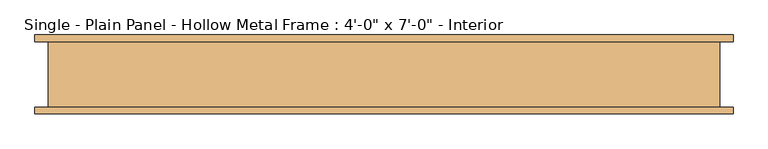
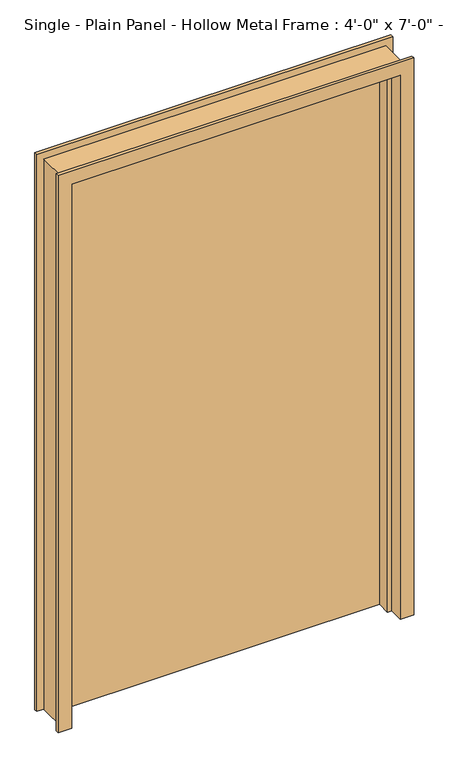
"""IFC4 building model written with IfcOpenShell, lengths in millimetres: door geometry."""

import ifcopenshell
import ifcopenshell.guid

model = None  # the IFC model being written
_history = None  # IfcOwnerHistory: only IFC2X3 demands one
_inside = {}  # id of a spatial element -> (the spatial element, [elements in it])
_under = {}  # id of a project, library or spatial element -> (it, [spatial elements below it])
_declared = {}  # id of a project -> (the project, [libraries it declares])
_typed = {}  # id of a type object -> (the type object, [elements of that type])
_made_of = {}  # id of a material, layer set ... -> (it, [elements and type objects made of it])


def new_model(schema):
    """Start an empty IFC model of exactly this schema.

    Asked for "IFC4X3", IfcOpenShell would pick the latest addendum, in which some entities
    have other attributes; the version numbers below select the first issue.
    IFC2X3 requires an IfcOwnerHistory on every rooted entity: one is made here for all.
    """
    global model, _history
    if schema == "IFC4X3":
        model = ifcopenshell.file(schema_version=(4, 3, 0, 0))
    else:
        model = ifcopenshell.file(schema=schema)
    _inside.clear()
    _under.clear()
    _declared.clear()
    _typed.clear()
    _made_of.clear()
    _history = None
    if model.schema == "IFC2X3":
        org = make("IfcOrganization", Name="unknown")
        user = make(
            "IfcPersonAndOrganization",
            ThePerson=make("IfcPerson", FamilyName="unknown"),
            TheOrganization=org,
        )
        app = make(
            "IfcApplication",
            ApplicationDeveloper=org,
            Version="unknown",
            ApplicationFullName="unknown",
            ApplicationIdentifier="unknown",
        )
        _history = make(
            "IfcOwnerHistory",
            OwningUser=user,
            OwningApplication=app,
            ChangeAction="ADDED",
            CreationDate=0,
        )
    return model


def make(cls, **values):
    """One entity of the class cls with the attributes given. An attribute that is None is left unset."""
    return model.create_entity(
        cls, **{name: value for name, value in values.items() if value is not None}
    )


def rooted(cls, **values):
    """An entity with a GlobalId (a new one), such as an element, a storey or a relation."""
    return make(cls, GlobalId=ifcopenshell.guid.new(), OwnerHistory=_history, **values)


def si_unit(unit_type, name, prefix=None):
    """IfcSIUnit, for example si_unit("LENGTHUNIT", "METRE", prefix="MILLI")."""
    return make("IfcSIUnit", UnitType=unit_type, Prefix=prefix, Name=name)


def assignment(units):
    """IfcUnitAssignment: the units of a project."""
    return None if units is None else make("IfcUnitAssignment", Units=units)


def point(xyz):
    """IfcCartesianPoint."""
    return None if xyz is None else make("IfcCartesianPoint", Coordinates=xyz)


def direction(xyz):
    """IfcDirection."""
    return None if xyz is None else make("IfcDirection", DirectionRatios=xyz)


def frame(location, z_axis=None, x_axis=None):
    """IfcAxis2Placement3D, a coordinate frame: its origin and axes. An axis left out is left unset."""
    return make(
        "IfcAxis2Placement3D",
        Location=point(location),
        Axis=direction(z_axis),
        RefDirection=direction(x_axis),
    )


def origin():
    """The frame at (0, 0, 0) with its axes left unset."""
    return frame((0.0, 0.0, 0.0))


def origin_with_axes():
    """The frame at (0, 0, 0) with the z axis (0, 0, 1) and the x axis (1, 0, 0) written out."""
    return frame((0.0, 0.0, 0.0), z_axis=(0.0, 0.0, 1.0), x_axis=(1.0, 0.0, 0.0))


def place(relative_to, where):
    """IfcLocalPlacement: puts the frame where relative to a parent placement (None: the world)."""
    return make(
        "IfcLocalPlacement", PlacementRelTo=relative_to, RelativePlacement=where
    )


def context(
    kind, dimensions, precision=None, world=None, true_north=None, identifier=None
):
    """IfcGeometricRepresentationContext, for example the 3D "Model" context."""
    return make(
        "IfcGeometricRepresentationContext",
        ContextIdentifier=identifier,
        ContextType=kind,
        CoordinateSpaceDimension=dimensions,
        Precision=precision,
        WorldCoordinateSystem=world,
        TrueNorth=true_north,
    )


def project(units=None, contexts=None):
    """IfcProject with its units and contexts."""
    return rooted(
        "IfcProject",
        Name="project",
        RepresentationContexts=contexts,
        UnitsInContext=assignment(units),
    )


def spatial(cls, under=None, at=None, **own):
    """A site, building, storey or space (cls), placed at a placement, below another one or the project."""
    s = rooted(cls, ObjectPlacement=at, **own)
    if under is not None:
        _under.setdefault(under.id(), (under, []))[1].append(s)
    return s


def polyline(points):
    """IfcPolyline through the points."""
    return make("IfcPolyline", Points=[point(p) for p in points])


def outline(outer, holes=None, kind="AREA"):
    """IfcArbitraryClosedProfileDef: a profile drawn as a closed curve; with holes, ...WithVoids."""
    if holes is None:
        return make("IfcArbitraryClosedProfileDef", ProfileType=kind, OuterCurve=outer)
    return make(
        "IfcArbitraryProfileDefWithVoids",
        ProfileType=kind,
        OuterCurve=outer,
        InnerCurves=holes,
    )


def extrude(swept, where, along, depth):
    """IfcExtrudedAreaSolid: the profile swept, set in the frame where, extruded along a direction by depth."""
    return make(
        "IfcExtrudedAreaSolid",
        SweptArea=swept,
        Position=where,
        ExtrudedDirection=direction(along),
        Depth=depth,
    )


def faces_of(points, faces, orient=None, outer=None):
    """IfcFace entities. A face is a list of loops; a loop is a list of indices into points, from 0.

    orient and outer hold one flag for each loop. By default every Orientation is true, the
    first loop of a face is its IfcFaceOuterBound and the others are IfcFaceBound.
    """
    made = []
    for i, loops in enumerate(faces):
        bounds = []
        for j, loop in enumerate(loops):
            is_outer = j == 0 if outer is None else outer[i][j]
            bounds.append(
                make(
                    "IfcFaceOuterBound" if is_outer else "IfcFaceBound",
                    Bound=make("IfcPolyLoop", Polygon=[points[k] for k in loop]),
                    Orientation=True if orient is None else orient[i][j],
                )
            )
        made.append(make("IfcFace", Bounds=bounds))
    return made


def faceted_brep(points, faces, orient=None, outer=None, voids=None):
    """IfcFacetedBrep: a solid bounded by flat faces; with voids (closed shells), ...WithVoids."""
    shared = [point(p) for p in points]
    hull = make("IfcClosedShell", CfsFaces=faces_of(shared, faces, orient, outer))
    if voids is None:
        return make("IfcFacetedBrep", Outer=hull)
    return make(
        "IfcFacetedBrepWithVoids",
        Outer=hull,
        Voids=[
            make(cls, CfsFaces=faces_of(shared, fs, o, b)) for cls, fs, o, b in voids
        ],
    )


def shape(context_of_items, identifier, shape_type, items):
    """IfcShapeRepresentation: the items that make up one representation, for example the "Body"."""
    return make(
        "IfcShapeRepresentation",
        ContextOfItems=context_of_items,
        RepresentationIdentifier=identifier,
        RepresentationType=shape_type,
        Items=items,
    )


def source(mapping_origin, context_of_items, identifier, shape_type, items):
    """IfcRepresentationMap: a shape defined once, which mapped items show again and again."""
    return make(
        "IfcRepresentationMap",
        MappingOrigin=mapping_origin,
        MappedRepresentation=shape(context_of_items, identifier, shape_type, items),
    )


def transform(
    local_origin,
    x_axis=None,
    y_axis=None,
    z_axis=None,
    scale=None,
    scale2=None,
    scale3=None,
    uniform=True,
):
    """IfcCartesianTransformationOperator3D, or its non-uniform kind. x_axis, y_axis, z_axis: its Axis1, 2, 3."""
    if uniform:
        return make(
            "IfcCartesianTransformationOperator3D",
            Axis1=direction(x_axis),
            Axis2=direction(y_axis),
            LocalOrigin=point(local_origin),
            Scale=scale,
            Axis3=direction(z_axis),
        )
    return make(
        "IfcCartesianTransformationOperator3DnonUniform",
        Axis1=direction(x_axis),
        Axis2=direction(y_axis),
        LocalOrigin=point(local_origin),
        Scale=scale,
        Axis3=direction(z_axis),
        Scale2=scale2,
        Scale3=scale3,
    )


def mapped(mapping_source, mapping_target):
    """IfcMappedItem: shows the shape of a source again, moved by a transform."""
    return make(
        "IfcMappedItem", MappingSource=mapping_source, MappingTarget=mapping_target
    )


def made_of(thing, what):
    """Note that an element or type object is made of a material, layer set ...; save() writes the relation."""
    if what is not None:
        _made_of.setdefault(what.id(), (what, []))[1].append(thing)
    return thing


def element(
    cls,
    number,
    at=None,
    inside=None,
    cuts=None,
    type_object=None,
    material=None,
    context=None,
    identifier="Body",
    shape_type=None,
    held_by="IfcProductDefinitionShape",
    body=None,
    shapes=None,
    **own,
):
    """One element of the class cls, such as IfcWall. Its Tag is "e" and its number.

    at: its placement. inside: the storey or other place that contains it. cuts: it is an
    opening in that element (IfcRelVoidsElement). A single representation is given by context,
    identifier, shape_type and body (its items); several are given by shapes. held_by: the class
    of the entity that holds the representations. save() writes the other relations.
    """
    e = rooted(cls, Tag="e%d" % number, ObjectPlacement=at, **own)
    if body is not None:
        shapes = [shape(context, identifier, shape_type, body)]
    if shapes is not None:
        e.Representation = make(held_by, Representations=shapes)
    if inside is not None:
        _inside.setdefault(inside.id(), (inside, []))[1].append(e)
    if cuts is not None:
        rooted(
            "IfcRelVoidsElement", RelatingBuildingElement=cuts, RelatedOpeningElement=e
        )
    if type_object is not None:
        _typed.setdefault(type_object.id(), (type_object, []))[1].append(e)
    return made_of(e, material)


def aggregate(whole, parts):
    """IfcRelAggregates: a whole, such as a stair, and the parts it consists of."""
    return rooted("IfcRelAggregates", RelatingObject=whole, RelatedObjects=parts)


def save(model, path):
    """Write the relations noted so far, then the file.

    IfcRelAggregates (storeys below a building ...), IfcRelContainedInSpatialStructure (elements
    in a storey), IfcRelDefinesByType, IfcRelAssociatesMaterial and IfcRelDeclares: one each for
    every whole, place, type object, material and project.
    """
    for whole, parts in _under.values():
        aggregate(whole, parts)
    for where, things in _inside.values():
        rooted(
            "IfcRelContainedInSpatialStructure",
            RelatedElements=things,
            RelatingStructure=where,
        )
    for kind, things in _typed.values():
        rooted("IfcRelDefinesByType", RelatedObjects=things, RelatingType=kind)
    for what, things in _made_of.values():
        rooted("IfcRelAssociatesMaterial", RelatedObjects=things, RelatingMaterial=what)
    for by, libraries in _declared.values():
        rooted("IfcRelDeclares", RelatingContext=by, RelatedDefinitions=libraries)
    model.write(path)


def door_f84329bb(model_context):
    return source(origin(), model_context, "Body", "SolidModel", [
        extrude(outline(polyline([(609.6, 30.1625), (-609.6, 30.1625), (-609.6, 74.6125), (609.6, 74.6125), (609.6, 30.1625)])), origin_with_axes(), (0.0, 0.0, 1.0), 2133.6),
        faceted_brep([(660.4, -61.9125, 0.0), (660.4, -74.6125, 0.0), (609.6, -74.6125, 0.0), (609.6, -20.6375, 0.0), (593.725, -20.6375, 0.0), (593.725, 30.1625, 0.0), (609.6, 30.1625, 0.0), (609.6, 74.6125, 0.0), (660.4, 74.6125, 0.0), (660.4, 61.9125, 0.0), (635.0, 61.9125, 0.0), (635.0, -61.9125, 0.0), (660.4, -61.9125, 2184.4), (660.4, -74.6125, 2184.4), (-660.4, -74.6125, 2184.4), (-660.4, -74.6125, 0.0), (-609.6, -74.6125, 0.0), (-609.6, -74.6125, 2133.6), (609.6, -74.6125, 2133.6), (609.6, -20.6375, 2133.6), (-609.6, -20.6375, 2133.6), (-609.6, -20.6375, 0.0), (-593.725, -20.6375, 0.0), (-593.725, -20.6375, 2117.725), (593.725, -20.6375, 2117.725), (593.725, 30.1625, 2117.725), (-593.725, 30.1625, 2117.725), (-593.725, 30.1625, 0.0), (-609.6, 30.1625, 0.0), (-609.6, 30.1625, 2133.6), (609.6, 30.1625, 2133.6), (609.6, 74.6125, 2133.6), (-609.6, 74.6125, 2133.6), (-609.6, 74.6125, 0.0), (-660.4, 74.6125, 0.0), (-660.4, 74.6125, 2184.4), (660.4, 74.6125, 2184.4), (660.4, 61.9125, 2184.4), (-660.4, 61.9125, 2184.4), (-660.4, 61.9125, 0.0), (-635.0, 61.9125, 0.0), (-635.0, 61.9125, 2159.0), (635.0, 61.9125, 2159.0), (635.0, -61.9125, 2159.0), (-635.0, -61.9125, 2159.0), (-635.0, -61.9125, 0.0), (-660.4, -61.9125, 0.0), (-660.4, -61.9125, 2184.4)], [[[0, 1, 2, 3, 4, 5, 6, 7, 8, 9, 10, 11]], [[1, 0, 12, 13]], [[2, 1, 13, 14, 15, 16, 17, 18]], [[3, 2, 18, 19]], [[4, 3, 19, 20, 21, 22, 23, 24]], [[5, 4, 24, 25]], [[6, 5, 25, 26, 27, 28, 29, 30]], [[7, 6, 30, 31]], [[8, 7, 31, 32, 33, 34, 35, 36]], [[9, 8, 36, 37]], [[10, 9, 37, 38, 39, 40, 41, 42]], [[11, 10, 42, 43]], [[0, 11, 43, 44, 45, 46, 47, 12]], [[14, 47, 46, 15]], [[46, 45, 40, 39, 34, 33, 28, 27, 22, 21, 16, 15]], [[20, 17, 16, 21]], [[26, 23, 22, 27]], [[32, 29, 28, 33]], [[38, 35, 34, 39]], [[44, 41, 40, 45]], [[13, 12, 47, 14]], [[19, 18, 17, 20]], [[25, 24, 23, 26]], [[31, 30, 29, 32]], [[37, 36, 35, 38]], [[43, 42, 41, 44]]]),
    ])


if __name__ == "__main__":
    model = new_model("IFC4")
    model_context = context("Model", 3, world=origin())
    ifc_project = project(units=[si_unit("LENGTHUNIT", "METRE", prefix="MILLI")], contexts=[model_context])
    site = spatial("IfcSite", under=ifc_project)
    building = spatial("IfcBuilding", under=site)
    placement = place(None, origin())
    door_shape = door_f84329bb(model_context)
    element("IfcDoor", 1, ObjectType="Single - Plain Panel - Hollow Metal Frame : 4'-0\" x 7'-0\" - Interior", at=placement, inside=building, context=model_context, shape_type="MappedRepresentation", body=[
        mapped(door_shape, transform((0.0, 0.0, 0.0), x_axis=(1.0, 0.0, 0.0), y_axis=(0.0, 1.0, 0.0), z_axis=(0.0, 0.0, 1.0))),
    ])
    save(model, "model.ifc")
